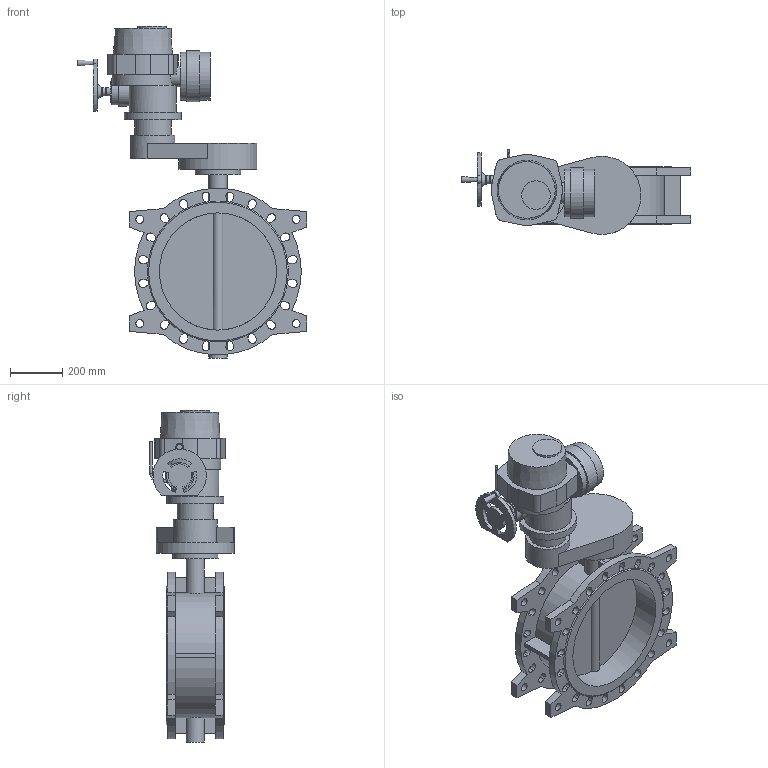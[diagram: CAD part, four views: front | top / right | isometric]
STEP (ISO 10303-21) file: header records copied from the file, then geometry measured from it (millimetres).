
FILE_DESCRIPTION(('STEP AP203'), '1');
FILE_NAME('青蜮铕 021F.Y DN450+菹 QT.A200', '', ('UNSPECIFIED'), ('UNSPECIFIED'), 'ASCON STEP Converter 1.6', 'ASCON Math Kernel', '');
FILE_SCHEMA(('CONFIG_CONTROL_DESIGN'));
Length unit declared in the file: millimetre
Bounding box: 879 x 324.45 x 1274 mm (x, y, z)
Volume: 48321519.6 mm3; surface area: 2888639.4 mm2
Topology: 1 solids, 1 shells, 379 faces, 1117 edges, 740 vertices
Faces by surface type: plane 208, cylinder 165, cone 5, torus 1
Full cylindrical faces by diameter (mm): 10 x2, 14 x12, 16 x1, 17.5 x4, 18 x4, 30 x8, 32 x2, 35 x1, 70 x2, 80 x2, 100 x1, 110 x1, 140 x1, 170 x1, 175 x1, 180 x1, 183 x2, 196 x1, 220 x1, 300 x1, 450 x2
Entity records: 18916 total; most frequent: CARTESIAN_POINT 5449, DIRECTION 2205, ORIENTED_EDGE 2120, EDGE_CURVE 1060, AXIS2_PLACEMENT_3D 827, VERTEX_POINT 740, LINE 551, VECTOR 551
